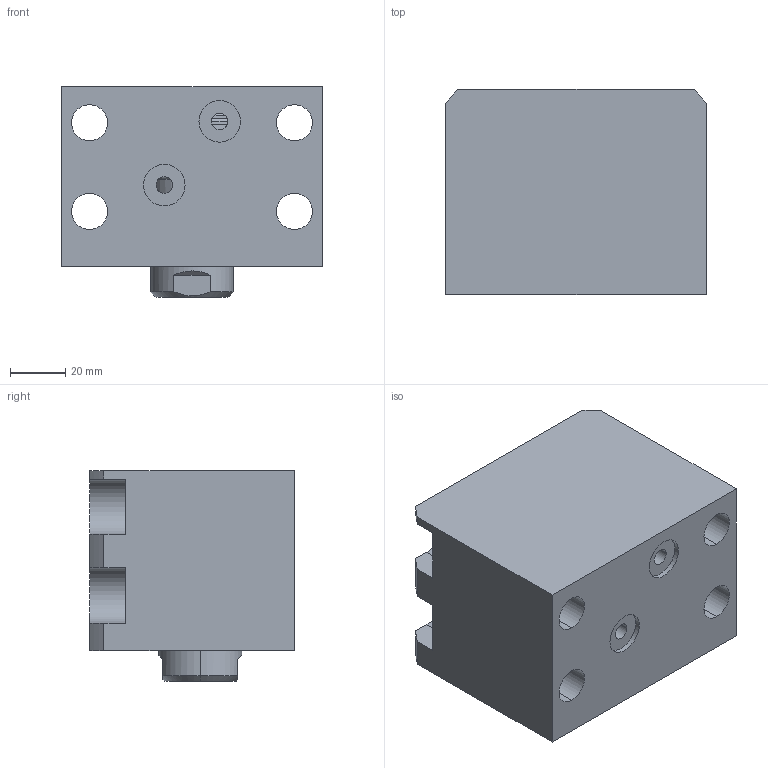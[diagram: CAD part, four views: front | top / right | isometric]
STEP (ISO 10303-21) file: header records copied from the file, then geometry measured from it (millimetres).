
FILE_DESCRIPTION (( 'STEP AP203' ), '1' );
FILE_NAME ('CHTB-LAM50-5N.STEP', '2018-05-23T09:17:35', ( '' ), ( '' ), 'SwSTEP 2.0', 'SolidWorks 2015', '' );
FILE_SCHEMA (( 'CONFIG_CONTROL_DESIGN' ));
Length unit declared in the file: millimetre
Products named in the file (4): 活塞杆LAM50-5N; 掛极LAM50-5N; CHTB-LAM50-5N; CHTM-SDMA50QG
Assembly tree (3 placements, depth 2):
  CHTB-LAM50-5N
    掛极LAM50-5N
    活塞杆LAM50-5N
    CHTM-SDMA50QG
Bounding box: 94 x 74 x 76 mm (x, y, z)
Volume: 387730.7 mm3; surface area: 84873.2 mm2
Topology: 3 solids, 3 shells, 179 faces, 489 edges, 325 vertices
Faces by surface type: cylinder 93, plane 41, torus 16, cone 15, bspline 14
Entity records: 10612 total; most frequent: CARTESIAN_POINT 5886, ORIENTED_EDGE 966, DIRECTION 841, EDGE_CURVE 483, AXIS2_PLACEMENT_3D 337, VERTEX_POINT 325, EDGE_LOOP 208, FACE_OUTER_BOUND 179
